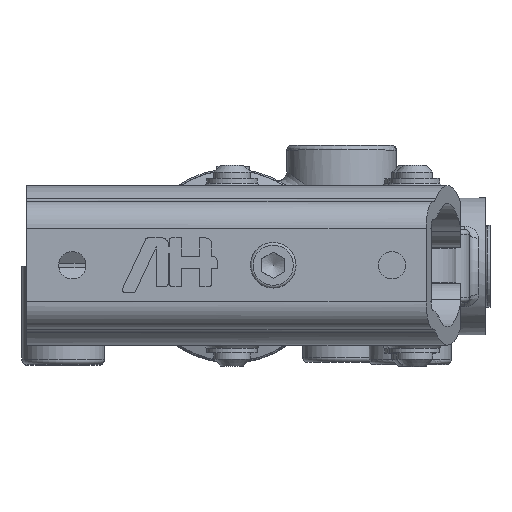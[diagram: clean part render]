
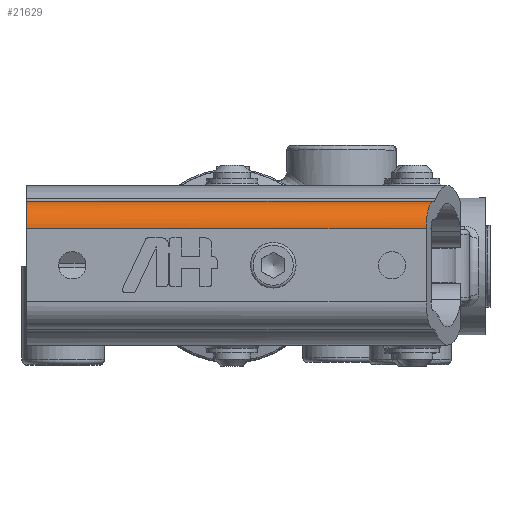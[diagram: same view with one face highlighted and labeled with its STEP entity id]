
A CAD part, top view. The second image highlights one B-rep face of the part: STEP entity #21629.
In plain terms, the highlighted cylindrical face has radius 6 mm (diameter 12 mm), a partial arc.
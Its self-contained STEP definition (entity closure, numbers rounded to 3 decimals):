
#17744=CARTESIAN_POINT('',(-44.99,8.003,251.009));
#17745=VERTEX_POINT('',#17744);
#17762=CARTESIAN_POINT('',(42.51,8.003,250.991));
#17763=VERTEX_POINT('',#17762);
#17770=CARTESIAN_POINT('',(42.51,8.003,250.991));
#17771=DIRECTION('',(-1.,0.,0.));
#17772=VECTOR('',#17771,87.5);
#17773=LINE('',#17770,#17772);
#17774=EDGE_CURVE('',#17763,#17745,#17773,.T.);
#21282=CARTESIAN_POINT('',(-44.991,14.001,245.164));
#21283=VERTEX_POINT('',#21282);
#21284=CARTESIAN_POINT('',(-44.991,8.003,245.009));
#21285=DIRECTION('',(1.,0.,0.));
#21286=DIRECTION('',(0.,-1.,-0.026));
#21287=AXIS2_PLACEMENT_3D('',#21284,#21285,#21286);
#21288=CIRCLE('',#21287,6.);
#21289=EDGE_CURVE('',#21283,#17745,#21288,.T.);
#21593=CARTESIAN_POINT('',(44.075,14.001,245.146));
#21594=VERTEX_POINT('',#21593);
#21602=CARTESIAN_POINT('',(44.117,8.003,244.991));
#21603=DIRECTION('',(-0.966,0.,-0.259));
#21604=DIRECTION('',(0.259,0.,-0.966));
#21605=AXIS2_PLACEMENT_3D('',#21602,#21603,#21604);
#21606=ELLIPSE('',#21605,6.212,6.);
#21607=EDGE_CURVE('',#17763,#21594,#21606,.T.);
#21613=CARTESIAN_POINT('',(50.009,8.003,244.99));
#21614=DIRECTION('',(-1.,0.,0.));
#21615=DIRECTION('',(0.,-1.,-0.026));
#21616=AXIS2_PLACEMENT_3D('',#21613,#21614,#21615);
#21617=CYLINDRICAL_SURFACE('',#21616,6.);
#21618=ORIENTED_EDGE('',*,*,#21289,.T.);
#21619=ORIENTED_EDGE('',*,*,#17774,.F.);
#21620=ORIENTED_EDGE('',*,*,#21607,.T.);
#21621=CARTESIAN_POINT('',(44.075,14.001,245.146));
#21622=DIRECTION('',(-1.,0.,0.));
#21623=VECTOR('',#21622,89.066);
#21624=LINE('',#21621,#21623);
#21625=EDGE_CURVE('',#21594,#21283,#21624,.T.);
#21626=ORIENTED_EDGE('',*,*,#21625,.T.);
#21627=EDGE_LOOP('',(#21618,#21619,#21620,#21626));
#21628=FACE_OUTER_BOUND('',#21627,.T.);
#21629=ADVANCED_FACE('',(#21628),#21617,.T.);
